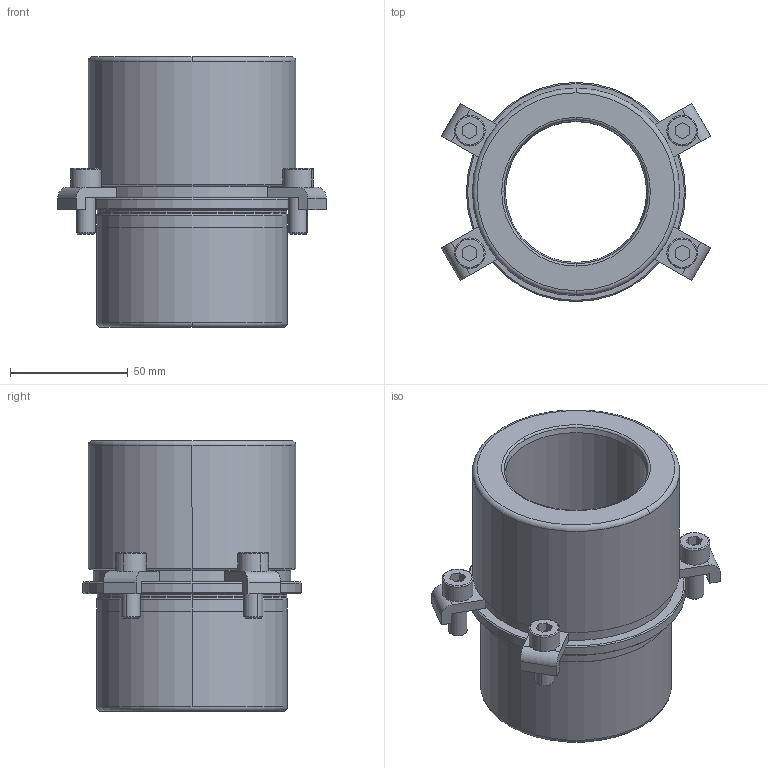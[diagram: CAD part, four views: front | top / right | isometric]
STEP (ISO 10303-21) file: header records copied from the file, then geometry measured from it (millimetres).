
FILE_DESCRIPTION((''),'2;1');
FILE_NAME('B40_048_065.stp','2009-01-05T16:40:01',(''),(''),'Mechanical Desktop 2009','Mechanical Desktop 2009',', , ');
FILE_SCHEMA(('CONFIG_CONTROL_DESIGN'));
Length unit declared in the file: millimetre
Products named in the file (2): Product; blmdl1
Assembly tree (1 placements, depth 2):
  Product
    blmdl1
Bounding box: 114.12 x 93 x 115 mm (x, y, z)
Volume: 340769.9 mm3; surface area: 69285.1 mm2
Topology: 9 solids, 9 shells, 173 faces, 422 edges, 278 vertices
Faces by surface type: plane 73, cylinder 50, cone 22, torus 16, bspline 12
Entity records: 5767 total; most frequent: CARTESIAN_POINT 1403, DIRECTION 966, ORIENTED_EDGE 844, EDGE_CURVE 422, AXIS2_PLACEMENT_3D 381, VERTEX_POINT 278, CIRCLE 218, VECTOR 204
